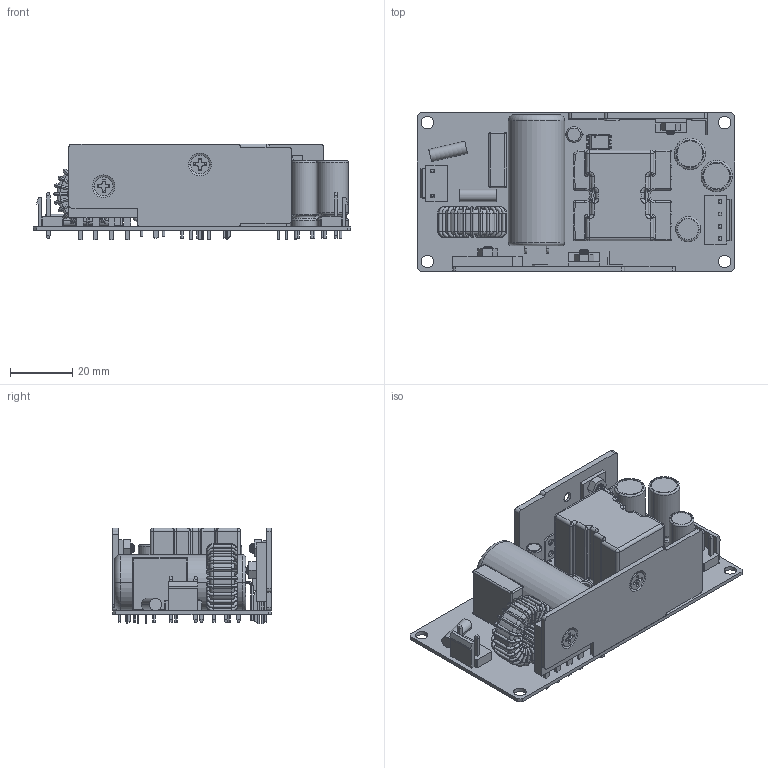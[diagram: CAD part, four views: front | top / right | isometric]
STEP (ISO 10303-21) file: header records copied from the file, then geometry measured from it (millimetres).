
FILE_DESCRIPTION(/* description */ (''),/* implementation_level */ '2;1');
FILE_NAME(/* name */ 'MDS-100BPS.stp',/* time_stamp */ '2014-02-25T11:27:23+08:00',/* author */ (''),/* organization */ (''),/* preprocessor_version */ 'ST-DEVELOPER v14',/* originating_system */ 'SIEMENS PLM Software NX 8.0',/* authorisation */ '');
FILE_SCHEMA (('CONFIG_CONTROL_DESIGN'));
Length unit declared in the file: millimetre
Products named in the file (1): MDS-100BPS_igs
Bounding box: 101.6 x 50.8 x 30.7 mm (x, y, z)
Volume: 51143.8 mm3; surface area: 37083.2 mm2
Topology: 55 solids, 55 shells, 1487 faces, 3429 edges, 2041 vertices
Faces by surface type: plane 589, cylinder 549, torus 262, bspline 34, sphere 27, cone 26
Entity records: 50109 total; most frequent: CARTESIAN_POINT 15935, DIRECTION 7433, ORIENTED_EDGE 6858, EDGE_CURVE 3429, AXIS2_PLACEMENT_3D 2751, VERTEX_POINT 2041, LINE 1931, VECTOR 1931
